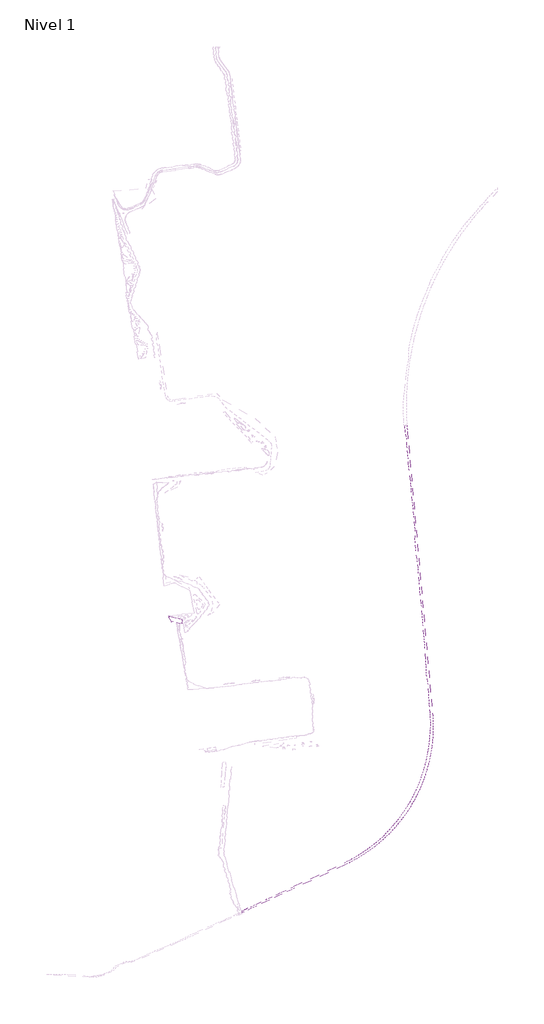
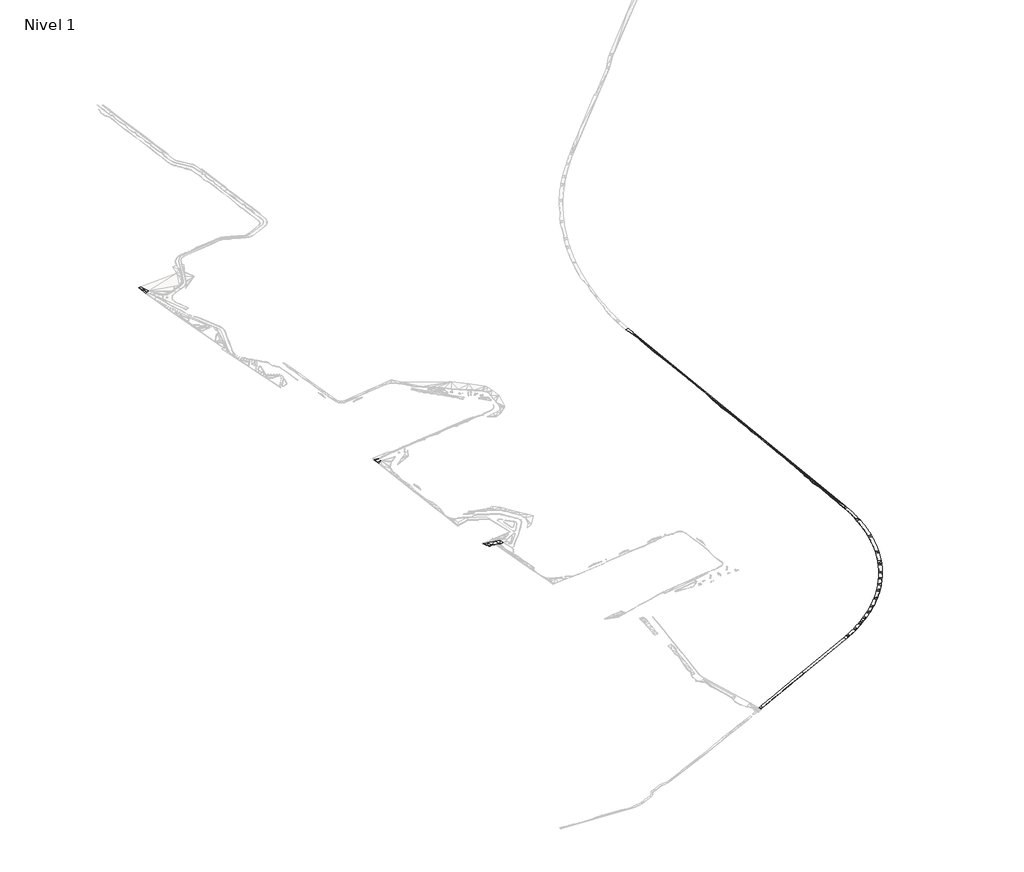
# One storey, part 20 of 45: 2 slabs.
"""IFC4 building model written with IfcOpenShell, lengths in millimetres."""

from ifc_helpers import new_model, si_unit, origin, place, context, project, spatial, faceted_brep, element, save

model = new_model("IFC4")

# Units and contexts
model_context = context("Model", 3, world=origin())
ifc_project = project(units=[si_unit("LENGTHUNIT", "METRE", prefix="MILLI")], contexts=[model_context])

# Site, building, storey
site = spatial("IfcSite", under=ifc_project)
building = spatial("IfcBuilding", under=site)
storey = spatial("IfcBuildingStorey", under=building, Name="Nivel 1", Elevation=0.0)

# Slabs
placement = place(None, origin())
element("IfcSlab", 1, ObjectType="Tierra Compactada", at=placement, inside=storey, context=model_context, shape_type="Brep", body=[
    faceted_brep([(-278029.7710843, -358789.5111976, 3028.4411942), (-278029.7710843, -358789.5111976, 3378.4411942), (-279542.0732701, -356006.1868321, 3228.4411942), (-281054.3754559, -353222.8624666, 3128.4411942), (-282566.6776418, -350439.5381011, 3028.4411942), (-284078.9798276, -347656.2137356, 2928.4411942), (-284078.9798276, -347656.2137356, 2578.4411942), (-282566.6776418, -350439.5381011, 2678.4411942), (-281054.3754559, -353222.8624666, 2778.4411942), (-279542.0732701, -356006.1868321, 2878.4411942), (-278094.3211444, -349035.5973504, 3278.4411942), (-272109.6624612, -350414.9809651, 3378.4411942), (-266125.003778, -351794.3645799, 3478.4411942), (-260140.3450948, -353173.7481946, 3500.0), (-260140.3450948, -353173.7481946, 3150.0), (-266125.003778, -351794.3645799, 3128.4411942), (-272109.6624612, -350414.9809651, 3028.4411942), (-278094.3211444, -349035.5973504, 2928.4411942), (-258919.2986759, -360472.0390564, 4078.4411942), (-258919.2986759, -360472.0390564, 3728.4411942), (-263554.8687719, -361247.5968408, 4078.4411942), (-263554.8687719, -361247.5968408, 3728.4411942), (-263570.4144325, -361154.679201, 4078.4411942), (-263570.4144325, -361154.679201, 3728.4411942), (-275434.05218, -357699.1205415, 3828.0945655), (-275434.05218, -357699.1205415, 3478.0945655)], [[[0, 1, 2, 3, 4, 5, 6, 7, 8, 9]], [[6, 5, 10, 11, 12, 13, 14, 15, 16, 17]], [[14, 13, 18, 19]], [[19, 18, 20, 21]], [[21, 20, 22, 23]], [[23, 22, 24, 25]], [[25, 24, 1, 0]], [[24, 22, 12]], [[25, 15, 23]], [[5, 4, 3, 2, 10]], [[6, 17, 9, 8, 7]], [[24, 2, 1]], [[25, 0, 9]], [[22, 20, 18]], [[23, 19, 21]], [[22, 13, 12]], [[23, 15, 14]], [[24, 10, 2]], [[25, 9, 17]], [[24, 12, 11, 10]], [[25, 17, 16, 15]], [[22, 18, 13]], [[23, 14, 19]]]),
    faceted_brep([(-312678.4352968, -101557.3973054, 3028.4411942), (-312678.4352968, -101557.3973054, 3378.4411942), (-312415.808377, -101294.7703857, 3333.3294667), (-312415.808377, -101294.7703857, 2983.3294667), (-305931.3971721, -107861.843951, 3128.4411942), (-305931.3971721, -107861.843951, 3478.4411942), (-311569.6170028, -111781.7790856, 3678.4411942), (-311569.6170028, -111781.7790856, 3328.4411942), (-306691.8894518, -102662.8553002, 3148.6164759), (-306691.8894518, -102662.8553002, 3498.6164759), (-312008.4044738, -103263.132276, 3231.7004072), (-312008.4044738, -103263.132276, 2881.7004072), (-311447.425994, -108231.5895742, 3231.7004072), (-311447.425994, -108231.5895742, 2881.7004072), (-306130.9109655, -107631.3125916, 3478.4411942), (-306130.9109655, -107631.3125916, 3128.4411942), (-306068.6816624, -102287.9595632, 3515.7202754), (-306068.6816624, -102287.9595632, 3165.7202754), (-306063.148786, -102442.4085916, 3579.1310559), (-306063.148786, -102442.4085916, 3229.1310559), (-306112.34019, -102447.9626938, 3578.4411942), (-306112.34019, -102447.9626938, 3228.4411942), (-306123.5597003, -102348.594074, 3579.1310559), (-306123.5597003, -102348.594074, 3229.1310559), (-306719.7714188, -102415.9111353, 3578.4411942), (-306719.7714188, -102415.9111353, 3228.4411942), (-306102.6983512, -107881.1852214, 3478.4411942), (-306102.6983512, -107881.1852214, 3128.4411942)], [[[0, 1, 2, 3]], [[4, 5, 6, 7]], [[7, 6, 1, 0]], [[8, 9, 10, 11]], [[11, 10, 12, 13]], [[13, 12, 14, 15]], [[1, 10, 2]], [[1, 12, 10]], [[6, 12, 1]], [[0, 3, 11]], [[0, 11, 13]], [[7, 0, 13]], [[3, 2, 16, 17]], [[17, 16, 18, 19]], [[19, 18, 20, 21]], [[21, 20, 22, 23]], [[23, 22, 24, 25]], [[25, 24, 9, 8]], [[15, 14, 26, 27]], [[27, 26, 5, 4]], [[6, 26, 12]], [[12, 26, 14]], [[6, 5, 26]], [[10, 9, 24]], [[10, 24, 2]], [[24, 22, 16]], [[7, 13, 27]], [[13, 15, 27]], [[7, 27, 4]], [[11, 25, 8]], [[11, 3, 25]], [[25, 17, 23]], [[24, 16, 2]], [[25, 3, 17]], [[22, 20, 18]], [[22, 18, 16]], [[23, 19, 21]], [[23, 17, 19]]]),
    faceted_brep([(-378562.4990268, 399847.3630097, 3728.4411942), (-378562.4990268, 399847.3630097, 4078.4411942), (-383061.4763629, 397994.3291281, 4078.4411942), (-384614.7732346, 397354.5589055, 3808.4411942), (-384614.7732346, 397354.5589055, 3458.4411942), (-383061.4763629, 397994.3291281, 3728.4411942), (-387059.1611034, 412699.5911715, 4678.4411942), (-387059.1611034, 412699.5911715, 4328.4411942), (-383906.7876588, 412966.7607944, 4843.3167343), (-383906.7876588, 412966.7607944, 4493.3167343)], [[[0, 1, 2, 3, 4, 5]], [[4, 3, 6, 7]], [[7, 6, 8, 9]], [[9, 8, 1, 0]], [[8, 6, 2]], [[9, 5, 7]], [[6, 3, 2]], [[7, 5, 4]], [[8, 2, 1]], [[9, 0, 5]]]),
])
element("IfcSlab", 2, ObjectType="Vidrio", at=placement, inside=storey, context=model_context, shape_type="Brep", body=[
    faceted_brep([(138309.0371129, -6814.4631785, 4900.0), (138309.0371129, -6814.4631785, 5200.0), (142931.3325671, -6527.8715356, 5200.0), (142931.3325671, -6527.8715356, 4900.0), (143292.7277219, -11571.0340784, 5200.0), (143292.7277219, -11571.0340784, 4900.0), (143704.402305, -16632.6807261, 5200.0), (143704.402305, -16632.6807261, 4900.0), (143845.6577971, -18243.0623405, 5200.0), (143845.6577971, -18243.0623405, 4900.0), (188753.8144353, -521371.0263007, 4650.0), (188753.8144353, -521371.0263007, 4350.0), (189018.3615919, -524544.69896, 4600.0), (189018.3615919, -524544.69896, 4300.0), (189350.0375672, -529387.7277941, 4600.0), (189350.0375672, -529387.7277941, 4300.0), (189595.1826, -534235.9069501, 4600.0), (189595.1826, -534235.9069501, 4300.0), (189625.1689647, -534981.0421978, 4600.0), (189625.1689647, -534981.0421978, 4300.0), (189753.7185215, -539087.6904995, 4600.0), (189753.7185215, -539087.6904995, 4300.0), (189825.5947795, -543941.5313535, 4600.0), (189825.5947795, -543941.5313535, 4300.0), (189810.7884548, -548795.8817751, 4600.0), (189810.7884548, -548795.8817751, 4300.0), (189801.3016424, -549509.590675, 4600.0), (189801.3016424, -549509.590675, 4300.0), (189709.3042688, -553649.1938595, 4600.0), (189709.3042688, -553649.1938595, 4300.0), (189521.1745814, -558499.9200393, 4550.0), (189521.1745814, -558499.9200393, 4250.0), (189246.4593816, -563346.5135646, 4550.0), (189246.4593816, -563346.5135646, 4250.0), (189200.9458325, -564026.7982714, 4550.0), (189200.9458325, -564026.7982714, 4250.0), (188885.2462675, -568187.4290061, 4550.0), (188885.2462675, -568187.4290061, 4250.0), (188437.6504187, -573021.122747, 4550.0), (188437.6504187, -573021.122747, 4250.0), (187903.8145599, -577846.0534763, 4550.0), (187903.8145599, -577846.0534763, 4250.0), (187825.816531, -578491.1946606, 4550.0), (187825.816531, -578491.1946606, 4250.0), (187283.9089145, -582660.6826641, 4550.0), (187283.9089145, -582660.6826641, 4250.0), (186578.1311516, -587463.4750791, 4550.0), (186578.1311516, -587463.4750791, 4250.0), (185786.7063216, -592252.8992601, 4550.0), (185786.7063216, -592252.8992601, 4250.0), (185679.8419774, -592861.4603773, 4550.0), (185679.8419774, -592861.4603773, 4250.0), (184909.8867856, -597027.4280038, 4550.0), (184909.8867856, -597027.4280038, 4250.0), (183947.9521341, -601785.5388661, 4500.0), (183947.9521341, -601785.5388661, 4200.0), (182901.2090986, -606525.7146273, 4500.0), (182901.2090986, -606525.7146273, 4200.0), (182769.1524325, -607096.5448496, 4500.0), (182769.1524325, -607096.5448496, 4200.0), (181769.9914529, -611246.443794, 4500.0), (181769.9914529, -611246.443794, 4200.0), (180554.6599071, -615946.221073, 4500.0), (180554.6599071, -615946.221073, 4200.0), (179255.6019933, -620623.547851, 4500.0), (179255.6019933, -620623.547851, 4200.0), (179102.0626672, -621155.783669, 4500.0), (179102.0626672, -621155.783669, 4200.0), (177873.2319405, -625276.9326687, 4500.0), (177873.2319405, -625276.9326687, 4200.0), (176407.9905439, -629904.8917097, 4500.0), (176407.9905439, -629904.8917097, 4200.0), (174860.3450239, -634505.9492615, 4500.0), (174860.3450239, -634505.9492615, 4200.0), (174689.0482098, -634999.0147565, 4500.0), (174689.0482098, -634999.0147565, 4200.0), (173230.7888765, -639078.6381856, 4450.0), (173230.7888765, -639078.6381856, 4150.0), (171526.0765566, -643623.9123595, 4450.0), (171526.0765566, -643623.9123595, 4150.0), (169747.1082242, -648140.8544228, 4450.0), (169747.1082242, -648140.8544228, 4150.0), (169563.0582287, -648595.0261269, 4450.0), (169563.0582287, -648595.0261269, 4150.0), (167887.6698353, -652625.538553, 4450.0), (167887.6698353, -652625.538553, 4150.0), (165948.3502658, -657076.5330036, 4450.0), (165948.3502658, -657076.5330036, 4150.0), (163929.7563518, -661492.4134005, 4400.0), (163929.7563518, -661492.4134005, 4100.0), (163735.2216409, -661907.2099317, 4400.0), (163735.2216409, -661907.2099317, 4100.0), (161832.5238525, -665871.7678924, 4350.0), (161832.5238525, -665871.7678924, 4050.0), (159657.3162712, -670213.1974798, 4350.0), (159657.3162712, -670213.1974798, 4050.0), (157404.8158176, -674515.3120075, 4350.0), (157404.8158176, -674515.3120075, 4050.0), (157203.4474798, -674890.9860783, 4350.0), (157203.4474798, -674890.9860783, 4050.0), (155075.7343124, -678776.736141, 4350.0), (155075.7343124, -678776.736141, 4050.0), (152670.8087204, -682996.107892, 4300.0), (152670.8087204, -682996.107892, 4000.0), (150190.7938075, -687172.0747918, 4300.0), (150190.7938075, -687172.0747918, 4000.0), (149986.1819694, -687509.1550675, 4300.0), (149986.1819694, -687509.1550675, 4000.0), (147636.4759839, -691303.3024826, 4300.0), (147636.4759839, -691303.3024826, 4000.0), (145008.662948, -695388.4694081, 4250.0), (145008.662948, -695388.4694081, 3950.0), (142308.1810763, -699426.2653206, 4250.0), (142308.1810763, -699426.2653206, 3950.0), (142103.8359345, -699725.550399, 4250.0), (142103.8359345, -699725.550399, 3950.0), (139535.8881231, -703415.4002917, 4250.0), (139535.8881231, -703415.4002917, 3950.0), (136692.6601163, -707354.5967069, 4200.0), (136692.6601163, -707354.5967069, 3900.0), (133779.3935658, -711242.5909646, 4200.0), (133779.3935658, -711242.5909646, 3900.0), (133578.7269029, -711505.1421494, 4200.0), (133578.7269029, -711505.1421494, 3900.0), (130797.0144852, -715078.1409506, 4200.0), (130797.0144852, -715078.1409506, 3900.0), (127746.4649978, -718860.0166485, 4150.0), (127746.4649978, -718860.0166485, 3850.0), (124628.7092124, -722587.0049269, 4150.0), (124628.7092124, -722587.0049269, 3850.0), (124435.0164656, -722814.1377837, 4150.0), (124435.0164656, -722814.1377837, 3850.0), (121444.7384259, -726257.9148345, 4150.0), (121444.7384259, -726257.9148345, 3850.0), (118195.5583492, -729871.5674047, 4150.0), (118195.5583492, -729871.5674047, 3850.0), (114882.1982271, -733426.803938, 4100.0), (114882.1982271, -733426.803938, 3800.0), (114698.6411787, -733620.0786762, 4100.0), (114698.6411787, -733620.0786762, 3800.0), (111505.7114323, -736922.4877179, 4100.0), (111505.7114323, -736922.4877179, 3800.0), (108067.1645685, -740357.4941725, 4100.0), (108067.1645685, -740357.4941725, 3800.0), (104567.6492458, -743730.7228361, 4100.0), (104567.6492458, -743730.7228361, 3800.0), (104397.2394522, -743891.9336245, 4100.0), (104397.2394522, -743891.9336245, 3800.0), (101008.2775669, -747041.0940562, 4050.0), (101008.2775669, -747041.0940562, 3750.0), (97390.1743659, -750287.5410941, 4050.0), (97390.1743659, -750287.5410941, 3750.0), (93714.4902434, -753469.0249812, 4050.0), (93714.4902434, -753469.0249812, 3750.0), (93560.0733178, -753600.1882896, 4050.0), (93560.0733178, -753600.1882896, 3750.0), (89982.3925972, -756584.5257462, 4000.0), (89982.3925972, -756584.5257462, 3700.0), (86195.061987, -759633.0382422, 4000.0), (86195.061987, -759633.0382422, 3700.0), (82353.7041179, -762613.5876392, 4000.0), (82353.7041179, -762613.5876392, 3700.0), (82217.9445305, -762716.9292074, 4000.0), (82217.9445305, -762716.9292074, 3700.0), (78459.5384524, -765525.2164089, 3950.0), (78459.5384524, -765525.2164089, 3650.0), (74513.7984105, -768366.9846122, 3950.0), (74513.7984105, -768366.9846122, 3650.0), (70517.7407311, -771137.9837812, 3950.0), (70517.7407311, -771137.9837812, 3650.0), (70403.1078357, -771215.9249735, 3950.0), (70403.1078357, -771215.9249735, 3650.0), (66472.6335014, -773837.3213102, 3900.0), (66472.6335014, -773837.3213102, 3600.0), (62379.7599072, -776464.1259917, 3900.0), (62379.7599072, -776464.1259917, 3600.0), (58240.4237638, -779017.5579347, 3900.0), (58240.4237638, -779017.5579347, 3600.0), (58149.1788026, -779072.7012799, 3900.0), (58149.1788026, -779072.7012799, 3600.0), (54055.9381557, -781496.7915945, 3810.0), (54055.9381557, -781496.7915945, 3510.0), (49827.6327527, -783901.0280733, 3810.0), (49827.6327527, -783901.0280733, 3510.0), (45556.854228, -786229.4976477, 3810.0), (45556.854228, -786229.4976477, 3510.0), (45491.0379998, -786264.6110401, 3810.0), (45491.0379998, -786264.6110401, 3510.0), (41244.9573788, -788481.4445738, 3810.0), (41244.9573788, -788481.4445738, 3510.0), (36893.3142445, -790656.1446496, 3800.0), (36893.3142445, -790656.1446496, 3500.0), (32503.3102055, -792752.8997109, 3800.0), (32503.3102055, -792752.8997109, 3500.0), (32464.7322093, -792770.9004365, 3800.0), (32464.7322093, -792770.9004365, 3500.0), (-58131.6626637, -835003.7101739, 3500.0), (-58131.6626637, -835003.7101739, 3200.0), (-62663.4646468, -837116.2758589, 3500.0), (-62663.4646468, -837116.2758589, 3200.0), (-80790.6718521, -845566.5401806, 3500.0), (-80790.6718521, -845566.5401806, 3200.0), (-85322.4718037, -847679.110254, 3500.0), (-85322.4718037, -847679.110254, 3200.0), (-103449.6629612, -856129.4092302, 3500.0), (-103449.6629612, -856129.4092302, 3200.0), (-107981.4578671, -858241.990202, 3500.0), (-107981.4578671, -858241.990202, 3200.0), (-126108.620121, -866692.3515972, 3500.0), (-126108.620121, -866692.3515972, 3200.0), (-130640.4077373, -868804.9483084, 3500.0), (-130640.4077373, -868804.9483084, 3200.0), (-135172.1870185, -870917.563022, 3500.0), (-135172.1870185, -870917.563022, 3200.0), (-148721.5888609, -877233.9915622, 3500.0), (-148721.5888609, -877233.9915622, 3200.0), (-151991.2322056, -875282.5618504, 2937.2725402), (-151991.2322056, -875282.5618504, 3237.2725402), (-148016.8814229, -873151.1988313, 3500.0), (-148016.8814229, -873151.1988313, 3200.0), (-145719.3030112, -871938.9799916, 3500.0), (-145719.3030112, -871938.9799916, 3200.0), (-136670.0956657, -867682.7584327, 3500.0), (-136670.0956657, -867682.7584327, 3200.0), (-132145.4923666, -865554.6468448, 3500.0), (-132145.4923666, -865554.6468448, 3200.0), (-127620.8696298, -863426.5772373, 3500.0), (-127620.8696298, -863426.5772373, 3200.0), (-109522.3511926, -854914.3581659, 3500.0), (-109522.3511926, -854914.3581659, 3200.0), (-104997.7114567, -852786.3252655, 3500.0), (-104997.7114567, -852786.3252655, 3200.0), (-91423.7720762, -846402.2701335, 3500.0), (-91423.7720762, -846402.2701335, 3200.0), (-86900.7022698, -844270.8468967, 3500.0), (-86900.7022698, -844270.8468967, 3200.0), (-82376.0579158, -842142.8239707, 3500.0), (-82376.0579158, -842142.8239707, 3200.0), (-64277.4632356, -833630.7695479, 3500.0), (-64277.4632356, -833630.7695479, 3200.0), (-59752.8141413, -831502.7568609, 3500.0), (-59752.8141413, -831502.7568609, 3200.0), (30700.5972293, -788961.1674853, 3800.0), (30700.5972293, -788961.1674853, 3500.0), (30738.5122645, -788943.2962973, 3800.0), (30738.5122645, -788943.2962973, 3500.0), (35052.73755, -786862.0981414, 3800.0), (35052.73755, -786862.0981414, 3500.0), (39328.5972371, -784704.4515487, 3810.0), (39328.5972371, -784704.4515487, 3510.0), (43500.0783592, -782505.8731705, 3810.0), (43500.0783592, -782505.8731705, 3510.0), (43564.7330763, -782471.0555345, 3810.0), (43564.7330763, -782471.0555345, 3510.0), (47759.8010408, -780162.6365603, 3810.0), (47759.8010408, -780162.6365603, 3510.0), (51912.4798377, -777779.9616632, 3810.0), (51912.4798377, -777779.9616632, 3510.0), (55931.8580597, -775378.4193405, 3900.0), (55931.8580597, -775378.4193405, 3600.0), (56021.4490459, -775323.7978042, 3900.0), (56021.4490459, -775323.7978042, 3600.0), (60085.4092532, -772794.9476567, 3900.0), (60085.4092532, -772794.9476567, 3600.0), (64103.0805052, -770194.2440391, 3900.0), (64103.0805052, -770194.2440391, 3600.0), (67960.6866813, -767599.6545785, 3900.0), (67960.6866813, -767599.6545785, 3600.0), (68073.1846679, -767522.5215693, 3900.0), (68073.1846679, -767522.5215693, 3600.0), (71994.4713695, -764780.6566012, 3950.0), (71994.4713695, -764780.6566012, 3650.0), (75865.7045414, -761969.5444841, 3950.0), (75865.7045414, -761969.5444841, 3650.0), (79552.492558, -759192.2740125, 4000.0), (79552.492558, -759192.2740125, 3700.0), (79685.6531163, -759090.0869974, 4000.0), (79685.6531163, -759090.0869974, 3700.0), (83453.1184187, -756143.2291706, 4000.0), (83453.1184187, -756143.2291706, 3700.0), (87166.9117846, -753129.9272821, 4000.0), (87166.9117846, -753129.9272821, 3700.0), (90674.4773433, -750180.7513021, 4050.0), (90674.4773433, -750180.7513021, 3750.0), (90825.8535688, -750051.1486166, 4050.0), (90825.8535688, -750051.1486166, 3750.0), (94428.7991921, -746907.9022117, 4050.0), (94428.7991921, -746907.9022117, 3750.0), (97974.6106705, -743701.2031813, 4050.0), (97974.6106705, -743701.2031813, 3750.0), (101295.2092291, -740591.2682515, 4100.0), (101295.2092291, -740591.2682515, 3800.0), (101462.1645885, -740432.0828476, 4100.0), (101462.1645885, -740432.0828476, 3800.0), (104890.3725325, -737101.6096891, 4100.0), (104890.3725325, -737101.6096891, 3800.0), (108258.1501826, -733710.8550974, 4100.0), (108258.1501826, -733710.8550974, 3800.0), (111384.712797, -730451.6397592, 4100.0), (111384.712797, -730451.6397592, 3800.0), (111564.4349434, -730260.9122925, 4100.0), (111564.4349434, -730260.9122925, 3800.0), (114808.1960018, -726752.9044699, 4150.0), (114808.1960018, -726752.9044699, 3850.0), (117988.4063844, -723187.9573752, 4150.0), (117988.4063844, -723187.9573752, 3850.0), (120914.551715, -719791.231009, 4150.0), (120914.551715, -719791.231009, 3850.0), (121104.0679301, -719567.2227301, 4150.0), (121104.0679301, -719567.2227301, 3850.0), (124154.2094553, -715891.8747314, 4150.0), (124154.2094553, -715891.8747314, 3850.0), (127137.8650345, -712163.0912431, 4200.0), (127137.8650345, -712163.0912431, 3900.0), (129857.9106896, -708640.874273, 4200.0), (129857.9106896, -708640.874273, 3900.0), (130054.1033793, -708382.0780747, 4200.0), (130054.1033793, -708382.0780747, 3900.0), (132902.0152764, -704550.0571605, 4200.0), (132902.0152764, -704550.0571605, 3900.0), (135680.6994681, -700668.2559018, 4250.0), (135680.6994681, -700668.2559018, 3950.0), (138189.670382, -697032.7789754, 4250.0), (138189.670382, -697032.7789754, 3950.0), (138389.2935025, -696737.9296206, 4250.0), (138389.2935025, -696737.9296206, 3950.0), (141026.9522904, -692760.3446439, 4250.0), (141026.9522904, -692760.3446439, 3950.0), (143592.8425708, -688736.7748999, 4300.0), (143592.8425708, -688736.7748999, 4000.0), (145886.4768811, -685000.4378323, 4300.0), (145886.4768811, -685000.4378323, 4000.0), (146086.1731156, -684668.5211536, 4300.0), (146086.1731156, -684668.5211536, 4000.0), (148506.1647325, -680556.8905257, 4300.0), (148506.1647325, -680556.8905257, 4000.0), (150852.0560037, -676403.2005545, 4350.0), (150852.0560037, -676403.2005545, 4050.0), (152926.808597, -672578.5312344, 4350.0), (152926.808597, -672578.5312344, 4050.0), (153123.1271085, -672208.7921489, 4350.0), (153123.1271085, -672208.7921489, 4050.0), (155318.6671894, -667975.0101351, 4350.0), (155318.6671894, -667975.0101351, 4050.0), (157437.9911649, -663703.2127556, 4350.0), (157437.9911649, -663703.2127556, 4050.0), (159291.0351411, -659802.826383, 4400.0), (159291.0351411, -659802.826383, 4100.0), (159480.4498402, -659394.7757043, 4400.0), (159480.4498402, -659394.7757043, 4100.0), (161445.4041631, -655051.0787804, 4450.0), (161445.4041631, -655051.0787804, 4150.0), (163332.2460233, -650673.5158366, 4450.0), (163332.2460233, -650673.5158366, 4150.0), (164961.4724516, -646710.0745671, 4450.0), (164961.4724516, -646710.0745671, 4150.0), (165140.4007212, -646263.4946135, 4450.0), (165140.4007212, -646263.4946135, 4150.0), (166869.301123, -641822.4253495, 4450.0), (166869.301123, -641822.4253495, 4150.0), (168534.2189734, -637357.5236805, 4450.0), (168534.2189734, -637357.5236805, 4150.0), (169965.6464015, -633352.9651359, 4500.0), (169965.6464015, -633352.9651359, 4200.0), (170133.7913619, -632868.9720229, 4500.0), (170133.7913619, -632868.9720229, 4200.0), (171652.960275, -628352.5737197, 4500.0), (171652.960275, -628352.5737197, 4200.0), (173091.2412968, -623809.7689141, 4500.0), (173091.2412968, -623809.7689141, 4200.0), (174297.4615942, -619764.448867, 4500.0), (174297.4615942, -619764.448867, 4200.0), (174448.1758036, -619242.0061648, 4500.0), (174448.1758036, -619242.0061648, 4200.0), (175723.3311111, -614650.7419877, 4500.0), (175723.3311111, -614650.7419877, 4200.0), (176916.3006119, -610037.4403958, 4500.0), (176916.3006119, -610037.4403958, 4200.0), (177897.077075, -605963.8994009, 4500.0), (177897.077075, -605963.8994009, 4200.0), (178026.7039045, -605403.5724298, 4500.0), (178026.7039045, -605403.5724298, 4200.0), (179054.1869159, -600750.6156851, 4500.0), (179054.1869159, -600750.6156851, 4200.0), (179998.4220137, -596080.0538462, 4550.0), (179998.4220137, -596080.0538462, 4250.0), (180754.2100651, -591990.7398344, 4550.0), (180754.2100651, -591990.7398344, 4250.0), (180859.1081103, -591393.3762134, 4550.0), (180859.1081103, -591393.3762134, 4250.0), (181635.9707594, -586692.0772203, 4550.0), (181635.9707594, -586692.0772203, 4250.0), (182328.7622437, -581977.6559666, 4550.0), (182328.7622437, -581977.6559666, 4250.0), (182860.6987849, -577884.8863513, 4550.0), (182860.6987849, -577884.8863513, 4250.0), (182937.2616534, -577251.6157337, 4550.0), (182937.2616534, -577251.6157337, 4250.0), (183461.2749569, -572515.4635113, 4550.0), (183461.2749569, -572515.4635113, 4250.0), (183900.6350624, -567770.7095154, 4550.0), (183900.6350624, -567770.7095154, 4250.0), (184210.5257698, -563686.6341949, 4550.0), (184210.5257698, -563686.6341949, 4250.0), (184255.2018718, -563018.8666963, 4550.0), (184255.2018718, -563018.8666963, 4250.0), (184633.720086, -558266.6459595, 4550.0), (184633.720086, -558266.6459595, 4250.0), (185031.1782973, -553509.5767089, 4600.0), (185031.1782973, -553509.5767089, 4300.0), (185325.1424291, -549444.2148496, 4600.0), (185325.1424291, -549444.2148496, 4300.0), (185372.1437787, -548742.7101423, 4600.0), (185372.1437787, -548742.7101423, 4300.0), (185656.2715598, -543966.0408635, 4600.0), (185656.2715598, -543966.0408635, 4300.0), (185803.306383, -539181.4735521, 4600.0), (185803.306383, -539181.4735521, 4300.0), (185504.2614059, -535141.2181452, 4600.0), (185504.2614059, -535141.2181452, 4300.0), (185479.9567704, -534407.1692888, 4600.0), (185479.9567704, -534407.1692888, 4300.0), (185289.1333134, -529629.4329435, 4600.0), (185289.1333134, -529629.4329435, 4300.0), (185029.3083716, -524853.6966544, 4600.0), (185029.3083716, -524853.6966544, 4300.0), (184749.6335796, -521728.4311642, 4650.0), (184749.6335796, -521728.4311642, 4350.0), (184587.3518493, -520016.2711319, 4650.0), (184587.3518493, -520016.2711319, 4350.0), (183643.0838467, -510060.7986775, 4650.0), (183643.0838467, -510060.7986775, 4350.0), (183234.2588319, -505077.4116189, 4650.0), (183234.2588319, -505077.4116189, 4350.0), (182997.9438536, -500078.6266745, 4650.0), (182997.9438536, -500078.6266745, 4350.0), (182624.2104709, -495092.1074104, 4650.0), (182624.2104709, -495092.1074104, 4350.0), (182320.1091117, -490099.3729372, 4700.0), (182320.1091117, -490099.3729372, 4400.0), (182013.0598268, -485106.9015906, 4700.0), (182013.0598268, -485106.9015906, 4400.0), (181085.9016296, -470130.0240186, 4700.0), (181085.9016296, -470130.0240186, 4400.0), (180381.429541, -465173.0258063, 4700.0), (180381.429541, -465173.0258063, 4400.0), (178514.7084002, -455299.8895987, 4700.0), (178514.7084002, -455299.8895987, 4400.0), (177592.2024145, -450362.3526384, 4700.0), (177592.2024145, -450362.3526384, 4400.0), (177384.048896, -445361.0540599, 4750.0), (177384.048896, -445361.0540599, 4450.0), (177925.1828726, -440292.8756372, 4750.0), (177925.1828726, -440292.8756372, 4450.0), (177380.0542502, -435321.6547583, 4750.0), (177380.0542502, -435321.6547583, 4450.0), (176513.1740609, -430379.1527533, 4750.0), (176513.1740609, -430379.1527533, 4450.0), (176512.8432071, -425359.3043563, 4750.0), (176512.8432071, -425359.3043563, 4450.0), (175361.2642362, -405382.580188, 4800.0), (175361.2642362, -405382.580188, 4500.0), (175073.0809886, -400388.4248984, 4800.0), (175073.0809886, -400388.4248984, 4500.0), (174784.712282, -395394.2861621, 4800.0), (174784.712282, -395394.2861621, 4500.0), (174457.9141008, -390403.5775595, 4800.0), (174457.9141008, -390403.5775595, 4500.0), (174018.271833, -385422.9411863, 4800.0), (174018.271833, -385422.9411863, 4500.0), (173571.8530159, -380442.9096718, 4800.0), (173571.8530159, -380442.9096718, 4500.0), (172231.4209928, -365502.920064, 4800.0), (172231.4209928, -365502.920064, 4500.0), (171777.9066414, -360523.5218861, 4800.0), (171777.9066414, -360523.5218861, 4500.0), (171320.3304296, -355544.4862571, 4800.0), (171320.3304296, -355544.4862571, 4500.0), (170940.2907132, -350558.5298863, 4800.0), (170940.2907132, -350558.5298863, 4500.0), (170568.2599647, -345571.858649, 4800.0), (170568.2599647, -345571.858649, 4500.0), (169435.3389691, -330613.3470357, 4850.0), (169435.3389691, -330613.3470357, 4550.0), (168975.7045966, -325634.4951176, 4850.0), (168975.7045966, -325634.4951176, 4550.0), (167143.632033, -310738.3883231, 4850.0), (167143.632033, -310738.3883231, 4550.0), (166640.6525432, -305763.4052978, 4850.0), (166640.6525432, -305763.4052978, 4550.0), (166261.970438, -300777.327747, 4850.0), (166261.970438, -300777.327747, 4550.0), (165551.601001, -290800.9779908, 4900.0), (165551.601001, -290800.9779908, 4600.0), (165118.1293103, -285819.7908447, 4900.0), (165118.1293103, -285819.7908447, 4600.0), (163881.037845, -270870.5772728, 4900.0), (163881.037845, -270870.5772728, 4600.0), (163554.8703099, -265879.8123811, 4900.0), (163554.8703099, -265879.8123811, 4600.0), (163077.1414491, -260902.5755384, 4900.0), (163077.1414491, -260902.5755384, 4600.0), (162012.0039042, -250957.8916457, 4900.0), (162012.0039042, -250957.8916457, 4600.0), (161382.5675682, -245994.1958961, 4900.0), (161382.5675682, -245994.1958961, 4600.0), (159266.1704776, -231123.4673176, 4950.0), (159266.1704776, -231123.4673176, 4650.0), (158763.809029, -226148.4291282, 4950.0), (158763.809029, -226148.4291282, 4650.0), (158102.3219946, -216167.7162283, 4950.0), (158102.3219946, -216167.7162283, 4650.0), (157690.3021456, -211184.6143369, 4950.0), (157690.3021456, -211184.6143369, 4650.0), (157709.4830053, -196123.2685082, 5000.0), (157709.4830053, -196123.2685082, 4700.0), (157718.8837167, -191102.5514909, 5000.0), (157718.8837167, -191102.5514909, 4700.0), (157150.4027842, -186133.4149902, 5000.0), (157150.4027842, -186133.4149902, 4700.0), (155301.7371052, -171238.7892612, 5050.0), (155301.7371052, -171238.7892612, 4750.0), (155384.6644209, -171231.3873422, 5050.0), (155384.6644209, -171231.3873422, 4750.0), (155033.8626987, -166242.8212453, 5050.0), (155033.8626987, -166242.8212453, 4750.0), (154319.6711576, -156266.812642, 5050.0), (154319.6711576, -156266.812642, 4750.0), (153937.978576, -151281.0038001, 5100.0), (153937.978576, -151281.0038001, 4800.0), (153425.4045264, -146306.8771668, 5100.0), (153425.4045264, -146306.8771668, 4800.0), (152909.7413868, -141333.0262572, 5100.0), (152909.7413868, -141333.0262572, 4800.0), (151368.3111021, -126410.9773364, 5100.0), (151368.3111021, -126410.9773364, 4800.0), (150969.7662649, -121426.6726923, 5100.0), (150969.7662649, -121426.6726923, 4800.0), (150598.9403245, -116439.8939189, 5100.0), (150598.9403245, -116439.8939189, 4800.0), (150201.6051986, -111455.4812972, 5150.0), (150201.6051986, -111455.4812972, 4850.0), (149725.1199309, -106478.1334539, 5150.0), (149725.1199309, -106478.1334539, 4850.0), (147058.1868215, -86636.666647, 5150.0), (147058.1868215, -86636.666647, 4850.0), (146478.7545724, -81668.5076383, 5150.0), (146478.7545724, -81668.5076383, 4850.0), (146050.5782425, -76686.8478384, 5150.0), (146050.5782425, -76686.8478384, 4850.0), (145394.8301386, -66705.6226962, 5200.0), (145394.8301386, -66705.6226962, 4900.0), (145024.8256897, -61718.7705942, 5200.0), (145024.8256897, -61718.7705942, 4900.0), (144553.1698848, -56740.9916827, 5200.0), (144553.1698848, -56740.9916827, 4900.0), (143558.6761409, -46790.0022705, 5200.0), (143558.6761409, -46790.0022705, 4900.0), (143203.0064676, -41801.8706803, 5200.0), (143203.0064676, -41801.8706803, 4900.0), (142814.7941664, -31796.7658461, 5200.0), (142814.7941664, -31796.7658461, 4900.0), (142339.4942273, -26819.3122007, 5200.0), (142339.4942273, -26819.3122007, 4900.0), (140591.3561595, -18533.5345425, 5200.0), (140591.3561595, -18533.5345425, 4900.0), (140360.2350811, -16920.8595575, 5200.0), (140360.2350811, -16920.8595575, 4900.0), (139620.6026785, -11851.9314666, 5200.0), (139620.6026785, -11851.9314666, 4900.0), (-151330.1774439, -878460.9201253, 3211.1267567), (-151330.1774439, -878460.9201253, 2911.1267567)], [[[0, 1, 2, 3]], [[3, 2, 4, 5]], [[5, 4, 6, 7]], [[7, 6, 8, 9]], [[9, 8, 10, 11]], [[11, 10, 12, 13]], [[13, 12, 14, 15]], [[15, 14, 16, 17]], [[17, 16, 18, 19]], [[19, 18, 20, 21]], [[21, 20, 22, 23]], [[23, 22, 24, 25]], [[25, 24, 26, 27]], [[27, 26, 28, 29]], [[29, 28, 30, 31]], [[31, 30, 32, 33]], [[33, 32, 34, 35]], [[35, 34, 36, 37]], [[37, 36, 38, 39]], [[39, 38, 40, 41]], [[41, 40, 42, 43]], [[43, 42, 44, 45]], [[45, 44, 46, 47]], [[47, 46, 48, 49]], [[49, 48, 50, 51]], [[51, 50, 52, 53]], [[53, 52, 54, 55]], [[55, 54, 56, 57]], [[57, 56, 58, 59]], [[59, 58, 60, 61]], [[61, 60, 62, 63]], [[63, 62, 64, 65]], [[65, 64, 66, 67]], [[67, 66, 68, 69]], [[69, 68, 70, 71]], [[71, 70, 72, 73]], [[73, 72, 74, 75]], [[75, 74, 76, 77]], [[77, 76, 78, 79]], [[79, 78, 80, 81]], [[81, 80, 82, 83]], [[83, 82, 84, 85]], [[85, 84, 86, 87]], [[87, 86, 88, 89]], [[89, 88, 90, 91]], [[91, 90, 92, 93]], [[93, 92, 94, 95]], [[95, 94, 96, 97]], [[97, 96, 98, 99]], [[99, 98, 100, 101]], [[101, 100, 102, 103]], [[103, 102, 104, 105]], [[105, 104, 106, 107]], [[107, 106, 108, 109]], [[109, 108, 110, 111]], [[111, 110, 112, 113]], [[113, 112, 114, 115]], [[115, 114, 116, 117]], [[117, 116, 118, 119]], [[119, 118, 120, 121]], [[121, 120, 122, 123]], [[123, 122, 124, 125]], [[125, 124, 126, 127]], [[127, 126, 128, 129]], [[129, 128, 130, 131]], [[131, 130, 132, 133]], [[133, 132, 134, 135]], [[135, 134, 136, 137]], [[137, 136, 138, 139]], [[139, 138, 140, 141]], [[141, 140, 142, 143]], [[143, 142, 144, 145]], [[145, 144, 146, 147]], [[147, 146, 148, 149]], [[149, 148, 150, 151]], [[151, 150, 152, 153]], [[153, 152, 154, 155]], [[155, 154, 156, 157]], [[157, 156, 158, 159]], [[159, 158, 160, 161]], [[161, 160, 162, 163]], [[163, 162, 164, 165]], [[165, 164, 166, 167]], [[167, 166, 168, 169]], [[169, 168, 170, 171]], [[171, 170, 172, 173]], [[173, 172, 174, 175]], [[175, 174, 176, 177]], [[177, 176, 178, 179]], [[179, 178, 180, 181]], [[181, 180, 182, 183]], [[183, 182, 184, 185]], [[185, 184, 186, 187]], [[187, 186, 188, 189]], [[189, 188, 190, 191]], [[191, 190, 192, 193]], [[193, 192, 194, 195]], [[195, 194, 196, 197]], [[197, 196, 198, 199]], [[199, 198, 200, 201]], [[201, 200, 202, 203]], [[203, 202, 204, 205]], [[205, 204, 206, 207]], [[207, 206, 208, 209]], [[209, 208, 210, 211]], [[211, 210, 212, 213]], [[213, 212, 214, 215]], [[216, 217, 218, 219]], [[219, 218, 220, 221]], [[221, 220, 222, 223]], [[223, 222, 224, 225]], [[225, 224, 226, 227]], [[227, 226, 228, 229]], [[229, 228, 230, 231]], [[231, 230, 232, 233]], [[233, 232, 234, 235]], [[235, 234, 236, 237]], [[237, 236, 238, 239]], [[239, 238, 240, 241]], [[241, 240, 242, 243]], [[243, 242, 244, 245]], [[245, 244, 246, 247]], [[247, 246, 248, 249]], [[249, 248, 250, 251]], [[251, 250, 252, 253]], [[253, 252, 254, 255]], [[255, 254, 256, 257]], [[257, 256, 258, 259]], [[259, 258, 260, 261]], [[261, 260, 262, 263]], [[263, 262, 264, 265]], [[265, 264, 266, 267]], [[267, 266, 268, 269]], [[269, 268, 270, 271]], [[271, 270, 272, 273]], [[273, 272, 274, 275]], [[275, 274, 276, 277]], [[277, 276, 278, 279]], [[279, 278, 280, 281]], [[281, 280, 282, 283]], [[283, 282, 284, 285]], [[285, 284, 286, 287]], [[287, 286, 288, 289]], [[289, 288, 290, 291]], [[291, 290, 292, 293]], [[293, 292, 294, 295]], [[295, 294, 296, 297]], [[297, 296, 298, 299]], [[299, 298, 300, 301]], [[301, 300, 302, 303]], [[303, 302, 304, 305]], [[305, 304, 306, 307]], [[307, 306, 308, 309]], [[309, 308, 310, 311]], [[311, 310, 312, 313]], [[313, 312, 314, 315]], [[315, 314, 316, 317]], [[317, 316, 318, 319]], [[319, 318, 320, 321]], [[321, 320, 322, 323]], [[323, 322, 324, 325]], [[325, 324, 326, 327]], [[327, 326, 328, 329]], [[329, 328, 330, 331]], [[331, 330, 332, 333]], [[333, 332, 334, 335]], [[335, 334, 336, 337]], [[337, 336, 338, 339]], [[339, 338, 340, 341]], [[341, 340, 342, 343]], [[343, 342, 344, 345]], [[345, 344, 346, 347]], [[347, 346, 348, 349]], [[349, 348, 350, 351]], [[351, 350, 352, 353]], [[353, 352, 354, 355]], [[355, 354, 356, 357]], [[357, 356, 358, 359]], [[359, 358, 360, 361]], [[361, 360, 362, 363]], [[363, 362, 364, 365]], [[365, 364, 366, 367]], [[367, 366, 368, 369]], [[369, 368, 370, 371]], [[371, 370, 372, 373]], [[373, 372, 374, 375]], [[375, 374, 376, 377]], [[377, 376, 378, 379]], [[379, 378, 380, 381]], [[381, 380, 382, 383]], [[383, 382, 384, 385]], [[385, 384, 386, 387]], [[387, 386, 388, 389]], [[389, 388, 390, 391]], [[391, 390, 392, 393]], [[393, 392, 394, 395]], [[395, 394, 396, 397]], [[397, 396, 398, 399]], [[399, 398, 400, 401]], [[401, 400, 402, 403]], [[403, 402, 404, 405]], [[405, 404, 406, 407]], [[407, 406, 408, 409]], [[409, 408, 410, 411]], [[411, 410, 412, 413]], [[413, 412, 414, 415]], [[415, 414, 416, 417]], [[417, 416, 418, 419]], [[419, 418, 420, 421]], [[421, 420, 422, 423]], [[423, 422, 424, 425]], [[425, 424, 426, 427]], [[427, 426, 428, 429]], [[429, 428, 430, 431]], [[431, 430, 432, 433]], [[433, 432, 434, 435]], [[435, 434, 436, 437]], [[437, 436, 438, 439]], [[439, 438, 440, 441]], [[441, 440, 442, 443]], [[443, 442, 444, 445]], [[445, 444, 446, 447]], [[447, 446, 448, 449]], [[449, 448, 450, 451]], [[451, 450, 452, 453]], [[453, 452, 454, 455]], [[455, 454, 456, 457]], [[457, 456, 458, 459]], [[459, 458, 460, 461]], [[461, 460, 462, 463]], [[463, 462, 464, 465]], [[465, 464, 466, 467]], [[467, 466, 468, 469]], [[469, 468, 470, 471]], [[471, 470, 472, 473]], [[473, 472, 474, 475]], [[475, 474, 476, 477]], [[477, 476, 478, 479]], [[479, 478, 480, 481]], [[481, 480, 482, 483]], [[483, 482, 484, 485]], [[485, 484, 486, 487]], [[487, 486, 488, 489]], [[489, 488, 490, 491]], [[491, 490, 492, 493]], [[493, 492, 494, 495]], [[495, 494, 496, 497]], [[497, 496, 498, 499]], [[499, 498, 500, 501]], [[501, 500, 502, 503]], [[503, 502, 504, 505]], [[505, 504, 506, 507]], [[507, 506, 508, 509]], [[509, 508, 510, 511]], [[511, 510, 512, 513]], [[513, 512, 514, 515]], [[515, 514, 516, 517]], [[517, 516, 518, 519]], [[519, 518, 520, 521]], [[521, 520, 522, 523]], [[523, 522, 524, 525]], [[525, 524, 526, 527]], [[527, 526, 528, 529]], [[529, 528, 530, 531]], [[531, 530, 532, 533]], [[533, 532, 534, 535]], [[535, 534, 536, 537]], [[537, 536, 538, 539]], [[539, 538, 540, 541]], [[541, 540, 542, 543]], [[543, 542, 544, 545]], [[545, 544, 546, 547]], [[547, 546, 548, 549]], [[549, 548, 550, 551]], [[551, 550, 552, 553]], [[553, 552, 554, 555]], [[555, 554, 556, 557]], [[557, 556, 558, 559]], [[559, 558, 560, 561]], [[561, 560, 562, 563]], [[563, 562, 564, 565]], [[565, 564, 566, 567]], [[567, 566, 568, 569]], [[569, 568, 1, 0]], [[215, 214, 570, 571]], [[571, 570, 217, 216]], [[217, 570, 214]], [[218, 217, 214]], [[240, 238, 236, 234, 232, 230, 228, 226, 224, 222, 220, 218, 214, 212, 210, 208, 206, 204, 202, 200, 198, 196]], [[246, 244, 242, 194, 192, 190]], [[242, 240, 196, 194]], [[246, 190, 188]], [[248, 246, 188]], [[256, 254, 252, 250, 248, 188, 186, 184, 182, 180]], [[258, 256, 178]], [[256, 180, 178]], [[264, 262, 260, 258, 178, 176, 174, 172]], [[264, 172, 170]], [[266, 264, 170]], [[268, 168, 166]], [[268, 266, 168]], [[270, 268, 166]], [[266, 170, 168]], [[272, 270, 166, 164]], [[272, 164, 162]], [[280, 278, 276, 274, 162, 160, 158, 156]], [[274, 272, 162]], [[280, 156, 154]], [[282, 280, 154]], [[288, 286, 284, 282, 154, 152, 150, 148]], [[290, 288, 146]], [[288, 148, 146]], [[300, 298, 296, 294, 292, 290, 146, 144, 142, 140, 138, 136]], [[300, 136, 134]], [[302, 300, 134]], [[310, 308, 306, 304, 302, 134, 132, 130, 128, 126]], [[312, 310, 124]], [[318, 316, 314, 312, 124, 122, 120, 118]], [[310, 126, 124]], [[318, 118, 116]], [[326, 324, 322, 320, 116, 114, 112, 110]], [[320, 318, 116]], [[326, 110, 108]], [[334, 332, 330, 328, 108, 106, 104, 102]], [[328, 326, 108]], [[336, 334, 100]], [[540, 538, 532]], [[538, 536, 534, 532]], [[540, 528, 8]], [[334, 102, 100]], [[548, 546, 544]], [[550, 548, 544]], [[550, 544, 542]], [[568, 566, 564, 562, 560, 558, 556, 554, 552, 550, 8, 6, 4, 2, 1]], [[550, 542, 8]], [[542, 540, 8]], [[540, 532, 530]], [[346, 344, 90]], [[344, 342, 340, 338, 336, 100, 98, 96, 94, 92]], [[344, 92, 90]], [[348, 346, 90, 88]], [[350, 348, 86]], [[348, 88, 86]], [[360, 358, 356, 354, 352, 350, 86, 84, 82, 80, 78, 76]], [[362, 360, 76]], [[382, 380, 378, 376, 374, 372, 370, 368, 366, 364, 362, 74, 72, 70, 68, 66, 64, 62, 60, 58, 56, 54]], [[362, 76, 74]], [[384, 382, 52]], [[382, 54, 52]], [[406, 404, 402, 400, 398, 396, 394, 392, 390, 388, 386, 384, 52, 50, 48, 46, 44, 42, 40, 38, 36, 34, 32, 30]], [[408, 406, 30]], [[516, 484, 482]], [[480, 478, 476, 474, 472]], [[482, 480, 472]], [[498, 496, 494, 492]], [[490, 488, 486, 484]], [[492, 490, 484]], [[498, 492, 484]], [[466, 464, 10]], [[462, 460, 10]], [[464, 462, 10]], [[482, 470, 10]], [[482, 472, 470]], [[470, 468, 10]], [[516, 482, 10]], [[522, 520, 518]], [[514, 512, 510]], [[540, 530, 528]], [[524, 522, 518]], [[526, 524, 518]], [[528, 526, 516]], [[526, 518, 516]], [[516, 502, 500]], [[516, 500, 498]], [[516, 514, 504]], [[514, 510, 504]], [[510, 506, 504]], [[510, 508, 506]], [[516, 504, 502]], [[516, 498, 484]], [[528, 516, 8]], [[468, 466, 10]], [[424, 422, 420, 418, 416, 414, 412, 410, 408, 28, 26, 24, 22, 20, 18, 16, 14, 12]], [[408, 30, 28]], [[424, 12, 10]], [[452, 448, 446]], [[452, 444, 442]], [[452, 446, 444]], [[458, 456, 454, 452]], [[452, 450, 448]], [[460, 452, 10]], [[452, 442, 10]], [[436, 434, 432, 430, 428, 426, 10]], [[426, 424, 10]], [[438, 436, 10]], [[440, 438, 10]], [[442, 440, 10]], [[460, 458, 452]], [[516, 10, 8]], [[216, 215, 571]], [[219, 215, 216]], [[241, 197, 199, 201, 203, 205, 207, 209, 211, 213, 215, 219, 221, 223, 225, 227, 229, 231, 233, 235, 237, 239]], [[247, 191, 193, 195, 243, 245]], [[243, 195, 197, 241]], [[247, 189, 191]], [[249, 189, 247]], [[257, 181, 183, 185, 187, 189, 249, 251, 253, 255]], [[259, 179, 257]], [[257, 179, 181]], [[265, 173, 175, 177, 179, 259, 261, 263]], [[265, 171, 173]], [[267, 171, 265]], [[269, 167, 169]], [[269, 169, 267]], [[271, 167, 269]], [[267, 169, 171]], [[273, 165, 167, 271]], [[273, 163, 165]], [[281, 157, 159, 161, 163, 275, 277, 279]], [[275, 163, 273]], [[281, 155, 157]], [[283, 155, 281]], [[289, 149, 151, 153, 155, 283, 285, 287]], [[291, 147, 289]], [[289, 147, 149]], [[301, 137, 139, 141, 143, 145, 147, 291, 293, 295, 297, 299]], [[301, 135, 137]], [[303, 135, 301]], [[311, 127, 129, 131, 133, 135, 303, 305, 307, 309]], [[313, 125, 311]], [[319, 119, 121, 123, 125, 313, 315, 317]], [[311, 125, 127]], [[319, 117, 119]], [[327, 111, 113, 115, 117, 321, 323, 325]], [[321, 117, 319]], [[327, 109, 111]], [[335, 103, 105, 107, 109, 329, 331, 333]], [[329, 109, 327]], [[337, 101, 335]], [[541, 533, 539]], [[539, 533, 535, 537]], [[541, 9, 529]], [[335, 101, 103]], [[549, 545, 547]], [[551, 545, 549]], [[551, 543, 545]], [[569, 0, 3, 5, 7, 9, 551, 553, 555, 557, 559, 561, 563, 565, 567]], [[551, 9, 543]], [[543, 9, 541]], [[541, 531, 533]], [[347, 91, 345]], [[345, 93, 95, 97, 99, 101, 337, 339, 341, 343]], [[345, 91, 93]], [[349, 89, 91, 347]], [[351, 87, 349]], [[349, 87, 89]], [[361, 77, 79, 81, 83, 85, 87, 351, 353, 355, 357, 359]], [[363, 77, 361]], [[383, 55, 57, 59, 61, 63, 65, 67, 69, 71, 73, 75, 363, 365, 367, 369, 371, 373, 375, 377, 379, 381]], [[363, 75, 77]], [[385, 53, 383]], [[383, 53, 55]], [[407, 31, 33, 35, 37, 39, 41, 43, 45, 47, 49, 51, 53, 385, 387, 389, 391, 393, 395, 397, 399, 401, 403, 405]], [[409, 31, 407]], [[517, 483, 485]], [[481, 473, 475, 477, 479]], [[483, 473, 481]], [[499, 493, 495, 497]], [[491, 485, 487, 489]], [[493, 485, 491]], [[499, 485, 493]], [[467, 11, 465]], [[463, 11, 461]], [[465, 11, 463]], [[483, 11, 471]], [[483, 471, 473]], [[471, 11, 469]], [[517, 11, 483]], [[523, 519, 521]], [[515, 511, 513]], [[541, 529, 531]], [[525, 519, 523]], [[527, 519, 525]], [[529, 517, 527]], [[527, 517, 519]], [[517, 501, 503]], [[517, 499, 501]], [[517, 505, 515]], [[515, 505, 511]], [[511, 505, 507]], [[511, 507, 509]], [[517, 503, 505]], [[517, 485, 499]], [[529, 9, 517]], [[469, 11, 467]], [[425, 13, 15, 17, 19, 21, 23, 25, 27, 29, 409, 411, 413, 415, 417, 419, 421, 423]], [[409, 29, 31]], [[425, 11, 13]], [[453, 447, 449]], [[453, 443, 445]], [[453, 445, 447]], [[459, 453, 455, 457]], [[453, 449, 451]], [[461, 11, 453]], [[453, 11, 443]], [[437, 11, 427, 429, 431, 433, 435]], [[427, 11, 425]], [[439, 11, 437]], [[441, 11, 439]], [[443, 11, 441]], [[461, 453, 459]], [[517, 9, 11]]]),
])

save(model, "model.ifc")
